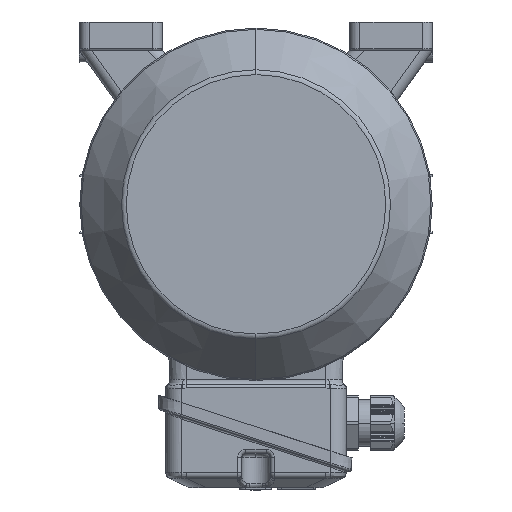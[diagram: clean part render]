
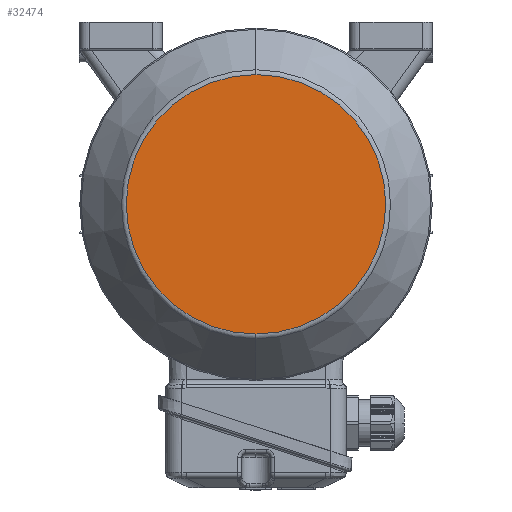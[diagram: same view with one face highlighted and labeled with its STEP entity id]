
A CAD part, left-side view. The second image highlights one B-rep face of the part: STEP entity #32474.
In plain terms, the highlighted planar face has unit normal (-1, 0, 0).
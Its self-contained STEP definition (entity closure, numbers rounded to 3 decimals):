
#656 = AXIS2_PLACEMENT_3D ( 'NONE', #30773, #20102, #30303 ) ;
#3413 = DIRECTION ( 'NONE',  ( 0., 0., -1. ) ) ;
#3952 = CARTESIAN_POINT ( 'NONE',  ( -166.5, 0., -64.037 ) ) ;
#4134 = EDGE_CURVE ( 'NONE', #14753, #27091, #31907, .T. ) ;
#5531 = CARTESIAN_POINT ( 'NONE',  ( -166.5, 0., 64.037 ) ) ;
#13330 = AXIS2_PLACEMENT_3D ( 'NONE', #3952, #35902, #14768 ) ;
#14753 = VERTEX_POINT ( 'NONE', #5531 ) ;
#14768 = DIRECTION ( 'NONE',  ( 0., 1., 0. ) ) ;
#17484 = DIRECTION ( 'NONE',  ( 1., 0., 0. ) ) ;
#20102 = DIRECTION ( 'NONE',  ( 1., 0., 0. ) ) ;
#21673 = ORIENTED_EDGE ( 'NONE', *, *, #4134, .F. ) ;
#24488 = FACE_OUTER_BOUND ( 'NONE', #29328, .T. ) ;
#27091 = VERTEX_POINT ( 'NONE', #41757 ) ;
#28612 = CARTESIAN_POINT ( 'NONE',  ( -166.5, 0., 0. ) ) ;
#29226 = EDGE_CURVE ( 'NONE', #27091, #14753, #40208, .T. ) ;
#29328 = EDGE_LOOP ( 'NONE', ( #36506, #21673 ) ) ;
#30303 = DIRECTION ( 'NONE',  ( 0., 0., -1. ) ) ;
#30773 = CARTESIAN_POINT ( 'NONE',  ( -166.5, 0., 0. ) ) ;
#31907 = CIRCLE ( 'NONE', #36396, 64.037 ) ;
#32474 = ADVANCED_FACE ( 'NONE', ( #24488 ), #32621, .T. ) ;
#32621 = PLANE ( 'NONE',  #13330 ) ;
#35902 = DIRECTION ( 'NONE',  ( -1., 0., 0. ) ) ;
#36396 = AXIS2_PLACEMENT_3D ( 'NONE', #28612, #17484, #3413 ) ;
#36506 = ORIENTED_EDGE ( 'NONE', *, *, #29226, .F. ) ;
#40208 = CIRCLE ( 'NONE', #656, 64.037 ) ;
#41757 = CARTESIAN_POINT ( 'NONE',  ( -166.5, 0., -64.037 ) ) ;
